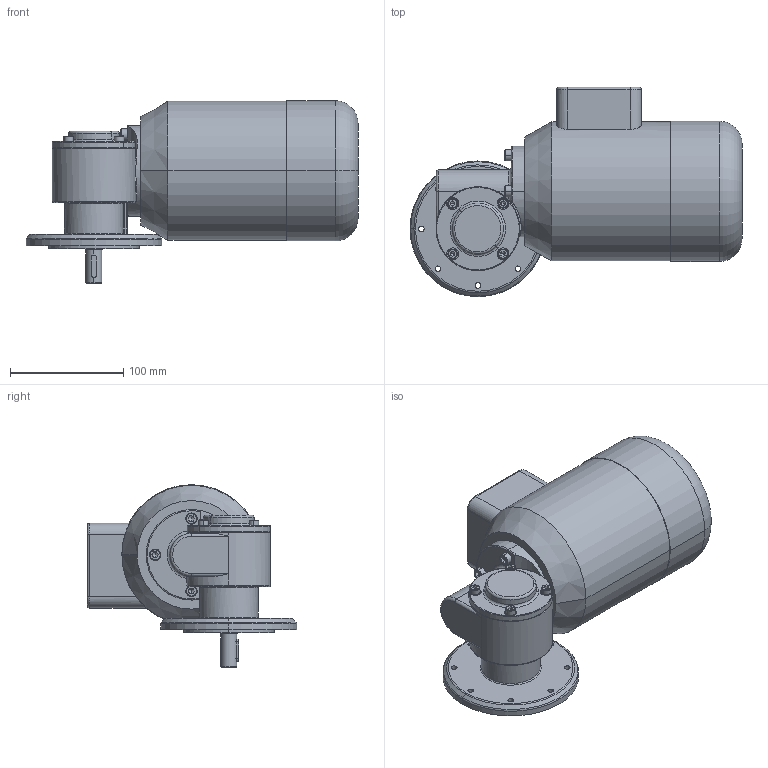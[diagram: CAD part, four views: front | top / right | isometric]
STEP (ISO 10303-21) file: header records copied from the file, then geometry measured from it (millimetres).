
FILE_DESCRIPTION (( 'STEP AP214' ), '1' );
FILE_NAME ('SN3F_120W_180W_250W_C.STEP', '2021-03-16T08:02:46', ( '' ), ( '' ), 'SwSTEP 2.0', 'SolidWorks 2019', '' );
FILE_SCHEMA (( 'AUTOMOTIVE_DESIGN' ));
Length unit declared in the file: millimetre
Products named in the file (1): SN3F_120W_180W_250W_C
Bounding box: 293.5 x 185 x 161.4 mm (x, y, z)
Surface area: 162549.7 mm2 (no closed solid volume)
Topology: 0 solids, 17 shells, 261 faces, 710 edges, 444 vertices
Faces by surface type: cylinder 97, plane 85, cone 42, torus 35, sphere 2
Entity records: 11425 total; most frequent: CARTESIAN_POINT 1878, DIRECTION 1517, ORIENTED_EDGE 1236, EDGE_CURVE 694, AXIS2_PLACEMENT_3D 599, VERTEX_POINT 444, CIRCLE 337, LINE 319
